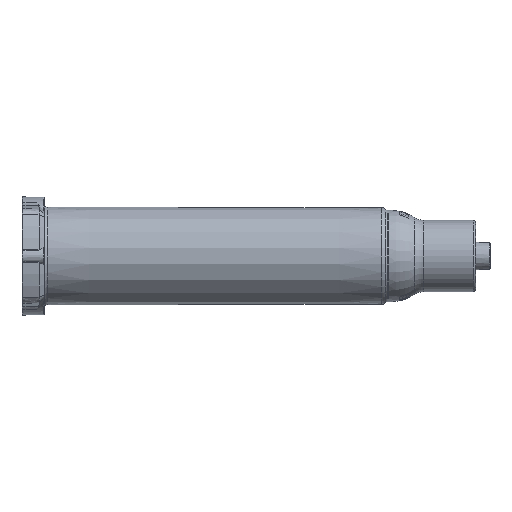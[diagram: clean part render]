
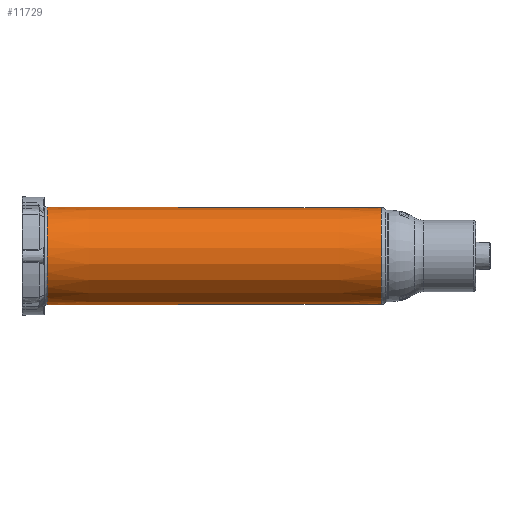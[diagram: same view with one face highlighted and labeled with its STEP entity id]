
A CAD part, left-side view. The second image highlights one B-rep face of the part: STEP entity #11729.
In plain terms, the highlighted conical face has half-angle 0.067 degrees and reference radius 7.231 mm.
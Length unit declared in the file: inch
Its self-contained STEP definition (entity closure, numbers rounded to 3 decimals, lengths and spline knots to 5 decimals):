
#464 = EDGE_CURVE ( 'NONE', #13027, #3039, #14384, .T. ) ;
#897 = DIRECTION ( 'NONE',  ( 0., -1., 0. ) ) ;
#2210 = CARTESIAN_POINT ( 'NONE',  ( 0., 0.62631, 0. ) ) ;
#3039 = VERTEX_POINT ( 'NONE', #15641 ) ;
#3314 = CARTESIAN_POINT ( 'NONE',  ( 0., 2.60302, 0.28698 ) ) ;
#5585 = EDGE_LOOP ( 'NONE', ( #13549, #17290, #11098, #8319 ) ) ;
#5844 = VERTEX_POINT ( 'NONE', #15070 ) ;
#6396 = VECTOR ( 'NONE', #15634, 39.37008 ) ;
#6683 = DIRECTION ( 'NONE',  ( 0., 0., 1. ) ) ;
#6908 = VECTOR ( 'NONE', #15757, 39.37008 ) ;
#6923 = AXIS2_PLACEMENT_3D ( 'NONE', #2210, #14023, #6683 ) ;
#7004 = EDGE_CURVE ( 'NONE', #3039, #10636, #12659, .T. ) ;
#7396 = CIRCLE ( 'NONE', #10257, 0.28698 ) ;
#8102 = CARTESIAN_POINT ( 'NONE',  ( 0., 0.62631, 0.28467 ) ) ;
#8319 = ORIENTED_EDGE ( 'NONE', *, *, #17691, .T. ) ;
#8533 = DIRECTION ( 'NONE',  ( 0., 0., 1. ) ) ;
#9763 = FACE_OUTER_BOUND ( 'NONE', #5585, .T. ) ;
#10257 = AXIS2_PLACEMENT_3D ( 'NONE', #14479, #897, #8533 ) ;
#10320 = CARTESIAN_POINT ( 'NONE',  ( 0., 0.6403, -0.28469 ) ) ;
#10636 = VERTEX_POINT ( 'NONE', #3314 ) ;
#10983 = EDGE_CURVE ( 'NONE', #13027, #5844, #18825, .T. ) ;
#11098 = ORIENTED_EDGE ( 'NONE', *, *, #7004, .T. ) ;
#11297 = CARTESIAN_POINT ( 'NONE',  ( 0., 0.62631, -0.28467 ) ) ;
#11729 = ADVANCED_FACE ( 'NONE', ( #9763 ), #15477, .T. ) ;
#12659 = LINE ( 'NONE', #8102, #6396 ) ;
#13027 = VERTEX_POINT ( 'NONE', #10320 ) ;
#13549 = ORIENTED_EDGE ( 'NONE', *, *, #10983, .F. ) ;
#14023 = DIRECTION ( 'NONE',  ( 0., 1., 0. ) ) ;
#14384 = CIRCLE ( 'NONE', #17544, 0.28469 ) ;
#14479 = CARTESIAN_POINT ( 'NONE',  ( 0., 2.60302, 0. ) ) ;
#14526 = DIRECTION ( 'NONE',  ( 0., 1., 0. ) ) ;
#14821 = CARTESIAN_POINT ( 'NONE',  ( 0., 0.6403, 0. ) ) ;
#15070 = CARTESIAN_POINT ( 'NONE',  ( 0., 2.60302, -0.28698 ) ) ;
#15477 = CONICAL_SURFACE ( 'NONE', #6923, 0.28467, 0.001 ) ;
#15634 = DIRECTION ( 'NONE',  ( 0., 1., 0.001 ) ) ;
#15641 = CARTESIAN_POINT ( 'NONE',  ( 0., 0.6403, 0.28469 ) ) ;
#15757 = DIRECTION ( 'NONE',  ( 0., 1., -0.001 ) ) ;
#16405 = DIRECTION ( 'NONE',  ( 0., 0., -1. ) ) ;
#17290 = ORIENTED_EDGE ( 'NONE', *, *, #464, .T. ) ;
#17544 = AXIS2_PLACEMENT_3D ( 'NONE', #14821, #14526, #16405 ) ;
#17691 = EDGE_CURVE ( 'NONE', #10636, #5844, #7396, .T. ) ;
#18825 = LINE ( 'NONE', #11297, #6908 ) ;
